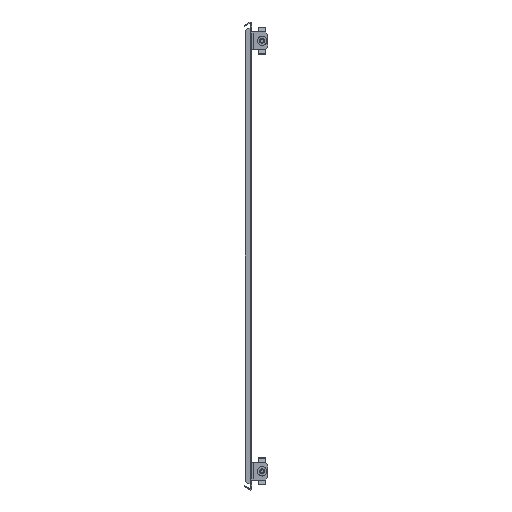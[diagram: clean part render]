
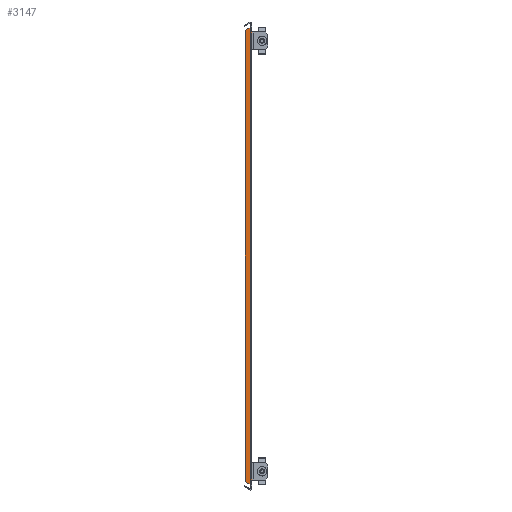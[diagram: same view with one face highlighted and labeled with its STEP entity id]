
A CAD part, front view. The second image highlights one B-rep face of the part: STEP entity #3147.
In plain terms, the highlighted planar face has unit normal (0, -1, 0).
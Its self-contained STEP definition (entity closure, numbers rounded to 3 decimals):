
#549 = DIRECTION ( 'NONE',  ( 1., 0., 0. ) ) ;
#842 = DIRECTION ( 'NONE',  ( 0., 0., -1. ) ) ;
#879 = EDGE_LOOP ( 'NONE', ( #5299, #19661, #42267, #14148, #22020, #33948, #37310, #23701, #10850, #9776 ) ) ;
#1061 = VERTEX_POINT ( 'NONE', #45156 ) ;
#1475 = EDGE_CURVE ( 'NONE', #28255, #4479, #33613, .T. ) ;
#3147 = ADVANCED_FACE ( 'NONE', ( #19958 ), #16222, .F. ) ;
#4264 = CARTESIAN_POINT ( 'NONE',  ( -6.77, -354.461, 2.493 ) ) ;
#4387 = LINE ( 'NONE', #20073, #24297 ) ;
#4479 = VERTEX_POINT ( 'NONE', #25616 ) ;
#5299 = ORIENTED_EDGE ( 'NONE', *, *, #41935, .T. ) ;
#5917 = LINE ( 'NONE', #24855, #43948 ) ;
#6542 = VERTEX_POINT ( 'NONE', #47287 ) ;
#6548 = CARTESIAN_POINT ( 'NONE',  ( -6.77, -354.461, -288.404 ) ) ;
#6901 = CARTESIAN_POINT ( 'NONE',  ( -6.77, -354.461, 2.493 ) ) ;
#8896 = LINE ( 'NONE', #12171, #46582 ) ;
#9776 = ORIENTED_EDGE ( 'NONE', *, *, #13744, .T. ) ;
#10385 = VERTEX_POINT ( 'NONE', #6548 ) ;
#10850 = ORIENTED_EDGE ( 'NONE', *, *, #39524, .T. ) ;
#11499 = VERTEX_POINT ( 'NONE', #36483 ) ;
#12058 = EDGE_CURVE ( 'NONE', #39663, #6542, #14485, .T. ) ;
#12171 = CARTESIAN_POINT ( 'NONE',  ( -6.77, -354.461, 293.39 ) ) ;
#13744 = EDGE_CURVE ( 'NONE', #21437, #47910, #21497, .T. ) ;
#13784 = CARTESIAN_POINT ( 'NONE',  ( -154.719, -354.461, -145.455 ) ) ;
#14148 = ORIENTED_EDGE ( 'NONE', *, *, #35622, .T. ) ;
#14485 = LINE ( 'NONE', #47901, #20810 ) ;
#15104 = DIRECTION ( 'NONE',  ( 0., 0., 1. ) ) ;
#15294 = EDGE_CURVE ( 'NONE', #43011, #1061, #48930, .T. ) ;
#16222 = PLANE ( 'NONE',  #27520 ) ;
#18175 = CARTESIAN_POINT ( 'NONE',  ( -6.77, -354.461, 2.493 ) ) ;
#18229 = DIRECTION ( 'NONE',  ( -0.707, 0., -0.707 ) ) ;
#19661 = ORIENTED_EDGE ( 'NONE', *, *, #24226, .T. ) ;
#19958 = FACE_OUTER_BOUND ( 'NONE', #879, .T. ) ;
#20073 = CARTESIAN_POINT ( 'NONE',  ( -6.77, -354.461, 2.493 ) ) ;
#20810 = VECTOR ( 'NONE', #18229, 1000. ) ;
#20988 = VECTOR ( 'NONE', #41118, 1000. ) ;
#21354 = LINE ( 'NONE', #37047, #46765 ) ;
#21437 = VERTEX_POINT ( 'NONE', #28371 ) ;
#21497 = LINE ( 'NONE', #13784, #34554 ) ;
#21802 = CARTESIAN_POINT ( 'NONE',  ( -14.77, -354.461, 2.493 ) ) ;
#22020 = ORIENTED_EDGE ( 'NONE', *, *, #1475, .T. ) ;
#22909 = CARTESIAN_POINT ( 'NONE',  ( -6.77, -354.461, -261.257 ) ) ;
#23701 = ORIENTED_EDGE ( 'NONE', *, *, #12058, .T. ) ;
#24226 = EDGE_CURVE ( 'NONE', #10385, #1061, #4387, .T. ) ;
#24297 = VECTOR ( 'NONE', #49275, 1000. ) ;
#24483 = VECTOR ( 'NONE', #25740, 1000. ) ;
#24832 = DIRECTION ( 'NONE',  ( 0., 0., 1. ) ) ;
#24855 = CARTESIAN_POINT ( 'NONE',  ( -6.77, -354.461, -288.404 ) ) ;
#25616 = CARTESIAN_POINT ( 'NONE',  ( -6.77, -354.461, 288.588 ) ) ;
#25740 = DIRECTION ( 'NONE',  ( 0., 0., -1. ) ) ;
#26214 = VECTOR ( 'NONE', #842, 1000. ) ;
#27358 = DIRECTION ( 'NONE',  ( -1., 0., 0. ) ) ;
#27520 = AXIS2_PLACEMENT_3D ( 'NONE', #4264, #34692, #549 ) ;
#28255 = VERTEX_POINT ( 'NONE', #39649 ) ;
#28371 = CARTESIAN_POINT ( 'NONE',  ( -14.77, -354.461, -285.404 ) ) ;
#30022 = LINE ( 'NONE', #21802, #26214 ) ;
#30178 = EDGE_CURVE ( 'NONE', #11499, #39663, #8896, .T. ) ;
#33613 = LINE ( 'NONE', #18175, #20988 ) ;
#33948 = ORIENTED_EDGE ( 'NONE', *, *, #42134, .T. ) ;
#34437 = VECTOR ( 'NONE', #15104, 1000. ) ;
#34554 = VECTOR ( 'NONE', #40210, 1000. ) ;
#34692 = DIRECTION ( 'NONE',  ( 0., 1., 0. ) ) ;
#35622 = EDGE_CURVE ( 'NONE', #43011, #28255, #21354, .T. ) ;
#36483 = CARTESIAN_POINT ( 'NONE',  ( -6.77, -354.461, 293.39 ) ) ;
#37047 = CARTESIAN_POINT ( 'NONE',  ( -6.77, -354.461, 2.493 ) ) ;
#37206 = CARTESIAN_POINT ( 'NONE',  ( -6.77, -354.461, 2.493 ) ) ;
#37310 = ORIENTED_EDGE ( 'NONE', *, *, #30178, .T. ) ;
#39524 = EDGE_CURVE ( 'NONE', #6542, #21437, #30022, .T. ) ;
#39649 = CARTESIAN_POINT ( 'NONE',  ( -6.77, -354.461, 266.243 ) ) ;
#39663 = VERTEX_POINT ( 'NONE', #45474 ) ;
#40210 = DIRECTION ( 'NONE',  ( 0.707, 0., -0.707 ) ) ;
#41118 = DIRECTION ( 'NONE',  ( 0., 0., 1. ) ) ;
#41935 = EDGE_CURVE ( 'NONE', #47910, #10385, #5917, .T. ) ;
#42134 = EDGE_CURVE ( 'NONE', #4479, #11499, #48544, .T. ) ;
#42267 = ORIENTED_EDGE ( 'NONE', *, *, #15294, .F. ) ;
#43011 = VERTEX_POINT ( 'NONE', #22909 ) ;
#43948 = VECTOR ( 'NONE', #48055, 1000. ) ;
#45156 = CARTESIAN_POINT ( 'NONE',  ( -6.77, -354.461, -283.602 ) ) ;
#45474 = CARTESIAN_POINT ( 'NONE',  ( -11.77, -354.461, 293.39 ) ) ;
#45918 = CARTESIAN_POINT ( 'NONE',  ( -11.77, -354.461, -288.404 ) ) ;
#46582 = VECTOR ( 'NONE', #27358, 1000. ) ;
#46765 = VECTOR ( 'NONE', #24832, 1000. ) ;
#47287 = CARTESIAN_POINT ( 'NONE',  ( -14.77, -354.461, 290.39 ) ) ;
#47901 = CARTESIAN_POINT ( 'NONE',  ( -154.719, -354.461, 150.442 ) ) ;
#47910 = VERTEX_POINT ( 'NONE', #45918 ) ;
#48055 = DIRECTION ( 'NONE',  ( 1., 0., 0. ) ) ;
#48544 = LINE ( 'NONE', #6901, #34437 ) ;
#48930 = LINE ( 'NONE', #37206, #24483 ) ;
#49275 = DIRECTION ( 'NONE',  ( 0., 0., 1. ) ) ;
